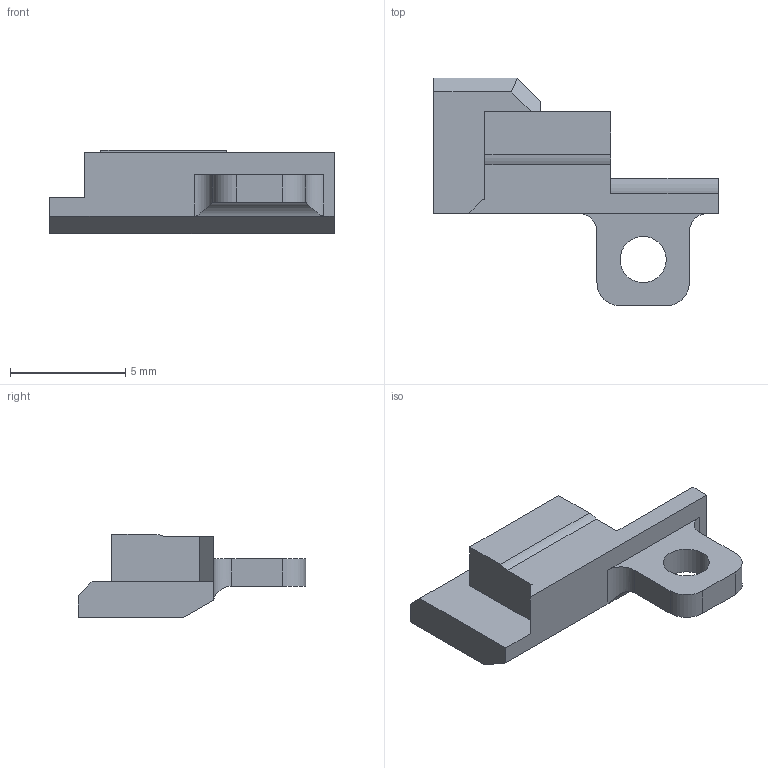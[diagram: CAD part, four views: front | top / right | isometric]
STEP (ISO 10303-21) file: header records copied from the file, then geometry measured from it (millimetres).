
FILE_DESCRIPTION(('STEP AP203'), '1');
FILE_NAME('upper', '2026-02-10T16:37:36', ('user'), (''), 'C3D Converter', 'C3D Toolkit', '');
FILE_SCHEMA(('CONFIG_CONTROL_DESIGN'));
Length unit declared in the file: millimetre
Bounding box: 12.31 x 9.86 x 3.6 mm (x, y, z)
Volume: 133.2 mm3; surface area: 235.3 mm2
Topology: 1 solids, 1 shells, 40 faces, 108 edges, 70 vertices
Faces by surface type: plane 27, cylinder 13
Full cylindrical faces by diameter (mm): 2 x1
Entity records: 1407 total; most frequent: CARTESIAN_POINT 357, ORIENTED_EDGE 214, DIRECTION 202, EDGE_CURVE 107, LINE 84, VECTOR 84, VERTEX_POINT 70, AXIS2_PLACEMENT_3D 59
